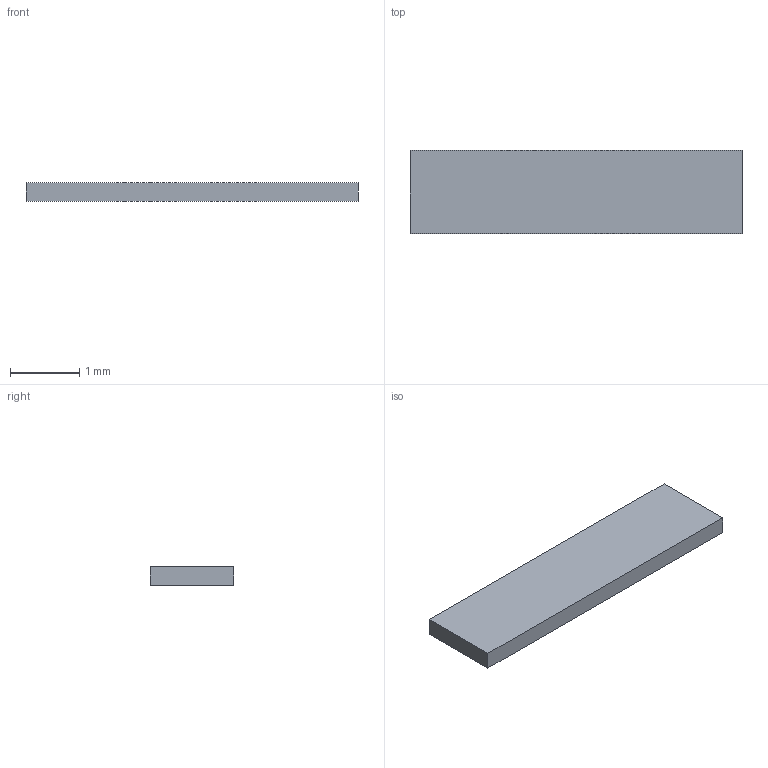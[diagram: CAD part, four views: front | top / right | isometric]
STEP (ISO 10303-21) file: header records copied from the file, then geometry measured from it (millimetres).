
FILE_DESCRIPTION(('Open CASCADE Model'),'2;1');
FILE_NAME('Open CASCADE Shape Model','2026-09-15T13:40:31',('Author'),( 'Open CASCADE'),'Open CASCADE STEP processor 7.7','Open CASCADE 7.7' ,'Unknown');
FILE_SCHEMA(('AUTOMOTIVE_DESIGN { 1 0 10303 214 1 1 1 1 }'));
Length unit declared in the file: millimetre
Products named in the file (1): SOLID
Bounding box: 4.8 x 1.2 x 0.26 mm (x, y, z)
Volume: 1.5 mm3; surface area: 14.7 mm2
Topology: 1 solids, 1 shells, 6 faces, 12 edges, 8 vertices
Faces by surface type: plane 6
Entity records: 322 total; most frequent: CARTESIAN_POINT 51, DIRECTION 50, LINE 36, VECTOR 36, ORIENTED_EDGE 24, PCURVE 24, DEFINITIONAL_REPRESENTATION 24, EDGE_CURVE 12
